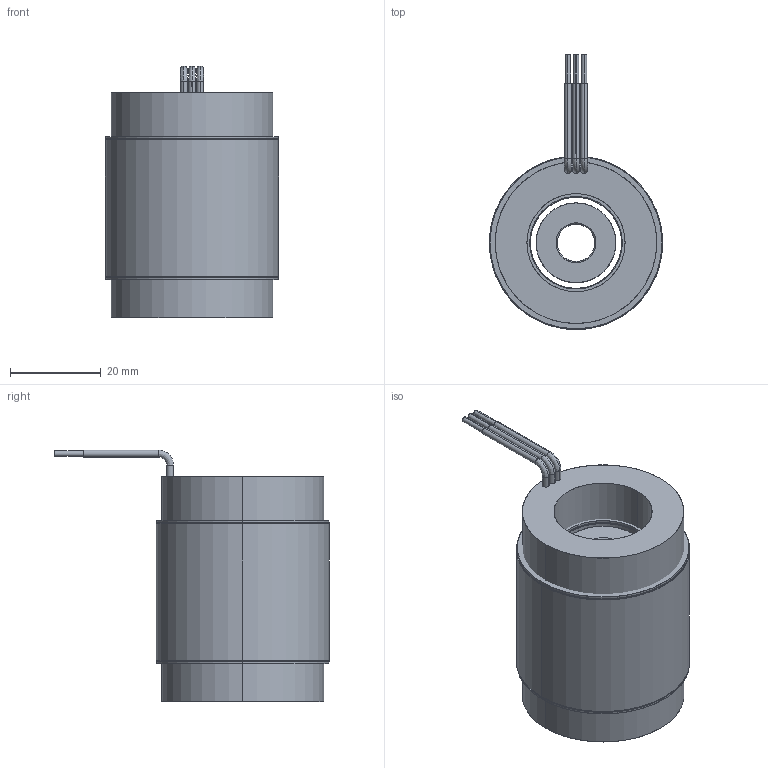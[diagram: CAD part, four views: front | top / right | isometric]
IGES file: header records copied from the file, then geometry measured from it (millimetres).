
Start section: SolidWorks IGES file using analytic representation for surfaces
Global section: file name: \\fs01.aveox.local\user documents\eng\My Documents\STANDARD STATOR ROTOR SETS\Standard rotor and stator set released\1.5 in stator diameter\6100250-04.IGS; native system: SolidWorks 2016; preprocessor: SolidWorks 2016; author: eng; date: 191111.083959; units: millimetre
Bounding box: 38.1 x 60.45 x 55.37 mm (x, y, z)
Surface area: 27288.4 mm2 (no closed solid volume)
Topology: 0 solids, 0 shells, 76 faces, 1696 edges, 1696 vertices
Faces by surface type: revolution 50, bspline 26
